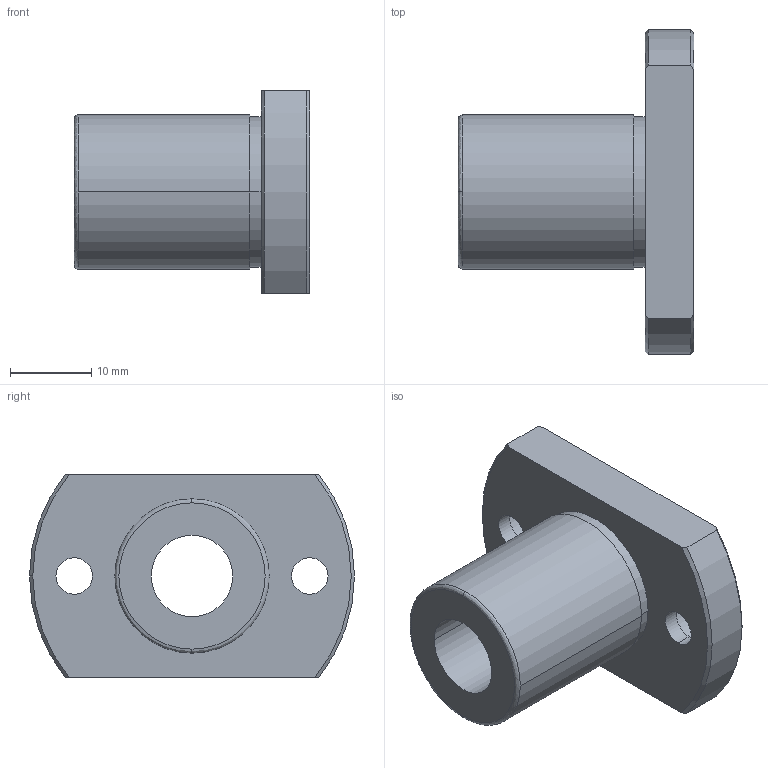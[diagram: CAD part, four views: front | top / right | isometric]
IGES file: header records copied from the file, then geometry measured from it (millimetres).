
Start section: 3D InterOp IGES (Version 21 0 1), Spatial Corp. Copyright (c) 1999-2007.
Global section: file name: NFEO-10VUU.igs; native system: Spatial Corp.; preprocessor: 3D InterOp GENERIC/IGES 3.0; author: Noname; organization: Noname; date: 20220308.103100; units: millimetre
Bounding box: 29 x 40 x 25 mm (x, y, z)
Surface area: 4858 mm2 (no closed solid volume)
Topology: 0 solids, 0 shells, 33 faces, 160 edges, 160 vertices
Faces by surface type: revolution 25, extrusion 8
